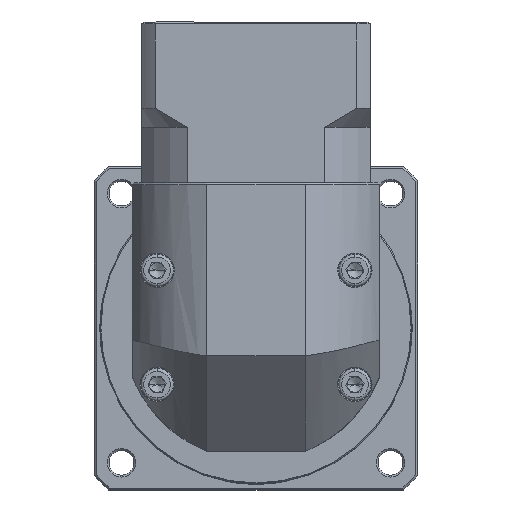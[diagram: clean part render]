
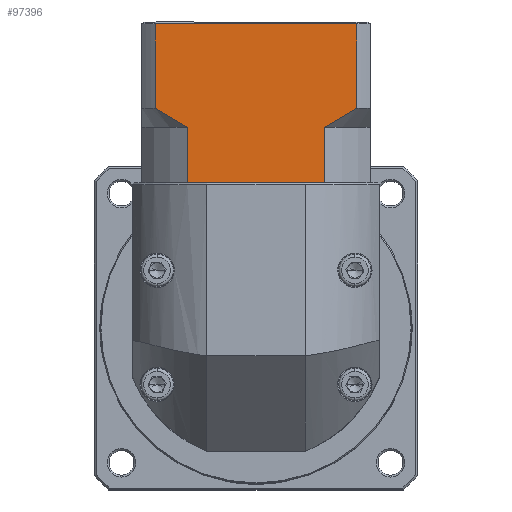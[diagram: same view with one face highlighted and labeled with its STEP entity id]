
A CAD part, top view. The second image highlights one B-rep face of the part: STEP entity #97396.
In plain terms, the highlighted planar face has unit normal (0, 0, 1).
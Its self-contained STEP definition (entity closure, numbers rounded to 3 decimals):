
#2094 = DIRECTION ( 'NONE',  ( 0., -1., 0. ) ) ;
#2138 = CARTESIAN_POINT ( 'NONE',  ( -85.49, 65.634, 24.315 ) ) ;
#2517 = ORIENTED_EDGE ( 'NONE', *, *, #93716, .T. ) ;
#3440 = DIRECTION ( 'NONE',  ( 0., 1., 0. ) ) ;
#4699 = CARTESIAN_POINT ( 'NONE',  ( -29.032, 85.134, 24.315 ) ) ;
#5545 = ORIENTED_EDGE ( 'NONE', *, *, #126648, .T. ) ;
#7801 = CARTESIAN_POINT ( 'NONE',  ( -73.518, 80.134, 24.315 ) ) ;
#7932 = VECTOR ( 'NONE', #2094, 1000. ) ;
#8164 = FACE_OUTER_BOUND ( 'NONE', #113574, .T. ) ;
#8215 = DIRECTION ( 'NONE',  ( 0., 0., -1. ) ) ;
#10478 = VERTEX_POINT ( 'NONE', #83055 ) ;
#12167 = CARTESIAN_POINT ( 'NONE',  ( -37.462, 80.134, 24.315 ) ) ;
#15193 = CARTESIAN_POINT ( 'NONE',  ( -29.032, 85.134, 24.315 ) ) ;
#18231 = DIRECTION ( 'NONE',  ( 0., -1., 0. ) ) ;
#22401 = EDGE_CURVE ( 'NONE', #32085, #104502, #110011, .T. ) ;
#25179 = CARTESIAN_POINT ( 'NONE',  ( -73.518, 65.634, 24.315 ) ) ;
#25253 = CARTESIAN_POINT ( 'NONE',  ( -31.775, 83.359, 24.315 ) ) ;
#25728 = B_SPLINE_CURVE_WITH_KNOTS ( 'NONE', 3,
 ( #85840, #105862, #96288, #107206, #44755, #43839 ),
 .UNSPECIFIED., .F., .F.,
 ( 4, 2, 4 ),
 ( 0.052, 0.057, 0.062 ),
 .UNSPECIFIED. ) ;
#26782 = VECTOR ( 'NONE', #3440, 1000. ) ;
#32085 = VERTEX_POINT ( 'NONE', #62674 ) ;
#32691 = VERTEX_POINT ( 'NONE', #64791 ) ;
#33569 = DIRECTION ( 'NONE',  ( 1., 0., 0. ) ) ;
#33785 = EDGE_CURVE ( 'NONE', #32691, #94689, #117644, .T. ) ;
#34585 = CARTESIAN_POINT ( 'NONE',  ( -85.49, 107.334, 24.315 ) ) ;
#35266 = LINE ( 'NONE', #34585, #74576 ) ;
#36680 = CARTESIAN_POINT ( 'NONE',  ( -36.006, 80.884, 24.315 ) ) ;
#37918 = DIRECTION ( 'NONE',  ( 1., 0., 0. ) ) ;
#37947 = PLANE ( 'NONE',  #43624 ) ;
#39318 = VECTOR ( 'NONE', #69016, 1000. ) ;
#43624 = AXIS2_PLACEMENT_3D ( 'NONE', #60714, #8215, #122739 ) ;
#43839 = CARTESIAN_POINT ( 'NONE',  ( -73.518, 80.134, 24.315 ) ) ;
#44489 = CARTESIAN_POINT ( 'NONE',  ( -85.49, 65.634, 24.315 ) ) ;
#44755 = CARTESIAN_POINT ( 'NONE',  ( -74.97, 80.882, 24.315 ) ) ;
#45141 = CARTESIAN_POINT ( 'NONE',  ( -73.518, 80.134, 24.315 ) ) ;
#52582 = ORIENTED_EDGE ( 'NONE', *, *, #128502, .T. ) ;
#55577 = DIRECTION ( 'NONE',  ( -1., 0., 0. ) ) ;
#56216 = ORIENTED_EDGE ( 'NONE', *, *, #66204, .F. ) ;
#60714 = CARTESIAN_POINT ( 'NONE',  ( -85.49, 107.834, 24.315 ) ) ;
#62674 = CARTESIAN_POINT ( 'NONE',  ( -29.032, 107.334, 24.315 ) ) ;
#64791 = CARTESIAN_POINT ( 'NONE',  ( -72.527, 65.634, 24.315 ) ) ;
#65406 = VERTEX_POINT ( 'NONE', #94580 ) ;
#65533 = VECTOR ( 'NONE', #76565, 1000. ) ;
#66204 = EDGE_CURVE ( 'NONE', #87879, #112192, #93633, .T. ) ;
#67095 = LINE ( 'NONE', #7801, #39318 ) ;
#67695 = ORIENTED_EDGE ( 'NONE', *, *, #82525, .T. ) ;
#68318 = CARTESIAN_POINT ( 'NONE',  ( -81.947, 85.134, 24.315 ) ) ;
#69016 = DIRECTION ( 'NONE',  ( 0., 1., 0. ) ) ;
#72542 = ORIENTED_EDGE ( 'NONE', *, *, #75146, .F. ) ;
#74576 = VECTOR ( 'NONE', #55577, 1000. ) ;
#75146 = EDGE_CURVE ( 'NONE', #65406, #10478, #79880, .T. ) ;
#76565 = DIRECTION ( 'NONE',  ( 1., 0., 0. ) ) ;
#77304 = CARTESIAN_POINT ( 'NONE',  ( -37.462, 80.134, 24.315 ) ) ;
#79880 = LINE ( 'NONE', #12167, #7932 ) ;
#80773 = VECTOR ( 'NONE', #18231, 1000. ) ;
#82525 = EDGE_CURVE ( 'NONE', #94689, #10478, #125152, .T. ) ;
#83055 = CARTESIAN_POINT ( 'NONE',  ( -37.462, 65.634, 24.315 ) ) ;
#84016 = ORIENTED_EDGE ( 'NONE', *, *, #33785, .T. ) ;
#84338 = VECTOR ( 'NONE', #37918, 1000. ) ;
#85840 = CARTESIAN_POINT ( 'NONE',  ( -81.947, 85.134, 24.315 ) ) ;
#87879 = VERTEX_POINT ( 'NONE', #68318 ) ;
#93633 = LINE ( 'NONE', #128095, #26782 ) ;
#93716 = EDGE_CURVE ( 'NONE', #65406, #104502, #121062, .T. ) ;
#94340 = ORIENTED_EDGE ( 'NONE', *, *, #108446, .F. ) ;
#94580 = CARTESIAN_POINT ( 'NONE',  ( -37.462, 80.134, 24.315 ) ) ;
#94689 = VERTEX_POINT ( 'NONE', #107464 ) ;
#96288 = CARTESIAN_POINT ( 'NONE',  ( -79.209, 83.361, 24.315 ) ) ;
#97396 = ADVANCED_FACE ( 'NONE', ( #8164 ), #37947, .F. ) ;
#103515 = ORIENTED_EDGE ( 'NONE', *, *, #114427, .T. ) ;
#103562 = CARTESIAN_POINT ( 'NONE',  ( -81.947, 107.334, 24.315 ) ) ;
#104502 = VERTEX_POINT ( 'NONE', #15193 ) ;
#105862 = CARTESIAN_POINT ( 'NONE',  ( -80.588, 84.234, 24.315 ) ) ;
#107206 = CARTESIAN_POINT ( 'NONE',  ( -76.401, 81.685, 24.315 ) ) ;
#107464 = CARTESIAN_POINT ( 'NONE',  ( -38.453, 65.634, 24.315 ) ) ;
#108446 = EDGE_CURVE ( 'NONE', #122651, #110353, #67095, .T. ) ;
#110011 = LINE ( 'NONE', #113130, #80773 ) ;
#110353 = VERTEX_POINT ( 'NONE', #45141 ) ;
#112192 = VERTEX_POINT ( 'NONE', #103562 ) ;
#113084 = VECTOR ( 'NONE', #33569, 1000. ) ;
#113130 = CARTESIAN_POINT ( 'NONE',  ( -29.032, 80.134, 24.315 ) ) ;
#113574 = EDGE_LOOP ( 'NONE', ( #129677, #5545, #56216, #52582, #94340, #103515, #84016, #67695, #72542, #2517 ) ) ;
#114427 = EDGE_CURVE ( 'NONE', #122651, #32691, #122925, .T. ) ;
#117644 = LINE ( 'NONE', #2138, #65533 ) ;
#120932 = CARTESIAN_POINT ( 'NONE',  ( -85.49, 65.634, 24.315 ) ) ;
#121062 = B_SPLINE_CURVE_WITH_KNOTS ( 'NONE', 3,
 ( #77304, #36680, #129777, #25253, #129322, #4699 ),
 .UNSPECIFIED., .F., .F.,
 ( 4, 2, 4 ),
 ( 0.1, 0.104, 0.109 ),
 .UNSPECIFIED. ) ;
#122651 = VERTEX_POINT ( 'NONE', #25179 ) ;
#122739 = DIRECTION ( 'NONE',  ( 0., 1., 0. ) ) ;
#122925 = LINE ( 'NONE', #44489, #113084 ) ;
#125152 = LINE ( 'NONE', #120932, #84338 ) ;
#126648 = EDGE_CURVE ( 'NONE', #32085, #112192, #35266, .T. ) ;
#128095 = CARTESIAN_POINT ( 'NONE',  ( -81.947, 80.134, 24.315 ) ) ;
#128502 = EDGE_CURVE ( 'NONE', #87879, #110353, #25728, .T. ) ;
#129322 = CARTESIAN_POINT ( 'NONE',  ( -30.395, 84.232, 24.315 ) ) ;
#129677 = ORIENTED_EDGE ( 'NONE', *, *, #22401, .F. ) ;
#129777 = CARTESIAN_POINT ( 'NONE',  ( -34.58, 81.684, 24.315 ) ) ;
